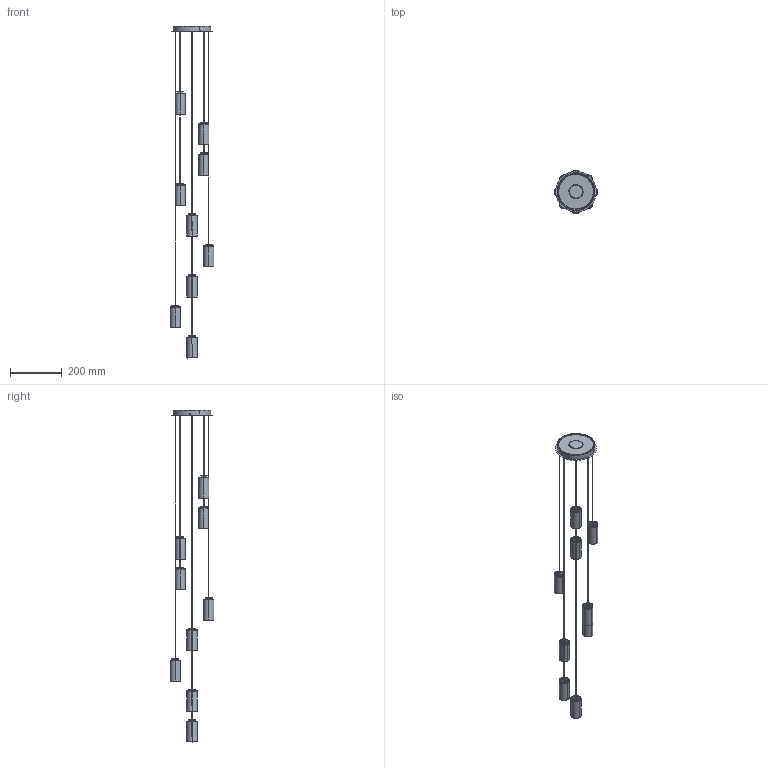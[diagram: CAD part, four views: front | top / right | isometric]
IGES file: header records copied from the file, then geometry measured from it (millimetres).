
Global section: file name: Cirio Cascada9 - aleatorio; native system: Unknown; preprocessor: BodyObjectToATFToIges; author: Autodesk 3ds Max; organization: Autodesk; date: 20180131.094118; units: centimetre
Bounding box: 169.69 x 169.69 x 1286.22 mm (x, y, z)
Volume: 161275.7 mm3; surface area: 333542.7 mm2
Topology: 1 solids, 1 shells, 3449 faces, 9317 edges, 6129 vertices
Faces by surface type: bspline 3449
